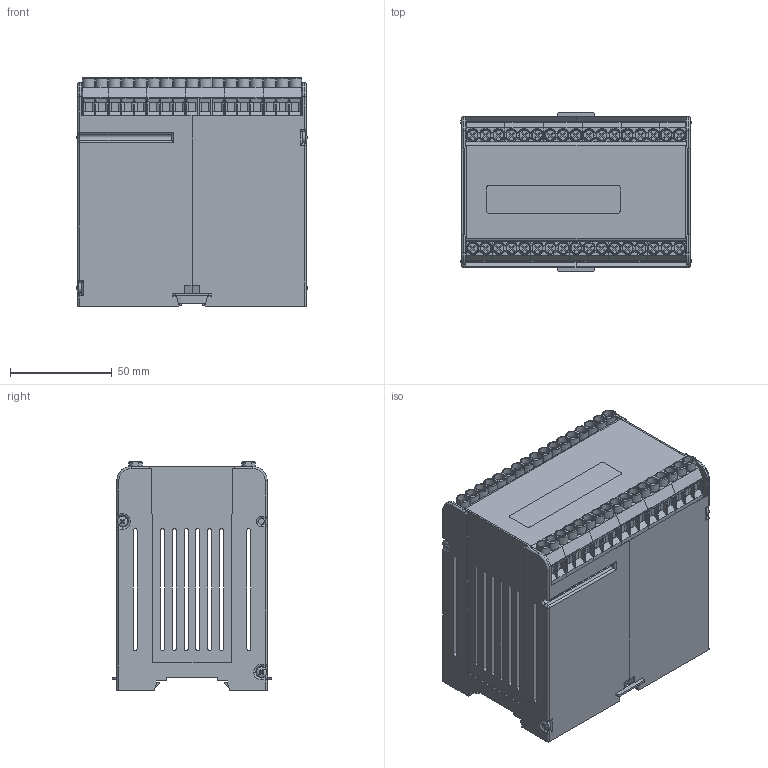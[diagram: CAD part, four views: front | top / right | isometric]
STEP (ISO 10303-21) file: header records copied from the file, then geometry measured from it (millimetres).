
FILE_DESCRIPTION (( 'STEP AP203' ), '1' );
FILE_NAME ('XM112_IRDH275.STEP', '2011-01-24T11:15:09', ( '' ), ( '' ), 'SwSTEP 2.0', 'SolidWorks 2010', '' );
FILE_SCHEMA (( 'CONFIG_CONTROL_DESIGN' ));
Length unit declared in the file: millimetre
Products named in the file (9): XM112_IRDH275; Ha151098.13; Fr151805.06_A335603; Plombier_XM92_112_R300306; Schieber_WM01.06; Feder_850157.00_gebogen 1,7mm; 1714968-schwarz; 1714955-schwarz; Schraube_Ku3_Linse-X_063
Assembly tree (24 placements, depth 2):
  XM112_IRDH275
    1714968-schwarz  x10
    Plombier_XM92_112_R300306
    Schraube_Ku3_Linse-X_063  x4
    Ha151098.13  x2
    Fr151805.06_A335603
    1714955-schwarz  x2
    Feder_850157.00_gebogen 1,7mm  x2
    Schieber_WM01.06  x2
Bounding box: 113.21 x 78 x 112.3 mm (x, y, z)
Volume: 150574.8 mm3; surface area: 159313.3 mm2
Topology: 24 solids, 24 shells, 4115 faces, 10822 edges, 6930 vertices
Faces by surface type: plane 3043, cylinder 868, bspline 106, cone 44, torus 30, sphere 24
Entity records: 35792 total; most frequent: CARTESIAN_POINT 7028, ORIENTED_EDGE 5780, DIRECTION 5543, EDGE_CURVE 2890, LINE 2275, VECTOR 2275, VERTEX_POINT 1870, AXIS2_PLACEMENT_3D 1634
